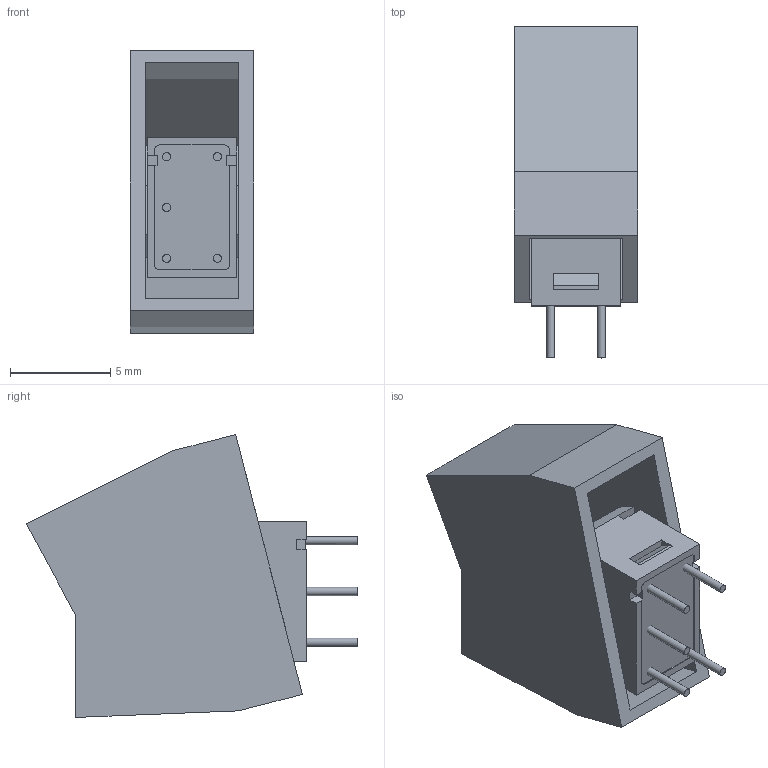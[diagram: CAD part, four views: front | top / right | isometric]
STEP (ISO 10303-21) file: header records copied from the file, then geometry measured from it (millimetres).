
FILE_DESCRIPTION(/* description */ ('STEP AP214'),/* implementation_level */ '2;1');
FILE_NAME(/* name */ 'G12KP-YA',/* time_stamp */ '2025-09-04T10:02:55+02:00',/* author */ ('License CC BY-ND 4.0'),/* organization */ ('CADENAS'),/* preprocessor_version */ 'ST-DEVELOPER v19.3',/* originating_system */ 'PARTsolutions',/* authorisation */ ' ');
FILE_SCHEMA (('AUTOMOTIVE_DESIGN {1 0 10303 214 3 1 1}'));
Length unit declared in the file: inch
Products named in the file (5): G12KP-YA; GP-body; G-rocker_actuator; AT4062A; G1-trmnls
Assembly tree (4 placements, depth 2):
  G12KP-YA
    GP-body
    G-rocker_actuator
    AT4062A
    G1-trmnls
Bounding box: 6.2 x 16.59 x 14.14 mm (x, y, z)
Volume: 538.3 mm3; surface area: 1191 mm2
Topology: 4 solids, 4 shells, 126 faces, 325 edges, 211 vertices
Faces by surface type: plane 107, cylinder 16, torus 2, cone 1
Full cylindrical faces by diameter (mm): 0.406 x5, 1.702 x1, 2.235 x1, 3.988 x1
Entity records: 3820 total; most frequent: CARTESIAN_POINT 675, ORIENTED_EDGE 620, DIRECTION 609, EDGE_CURVE 310, LINE 257, VECTOR 257, VERTEX_POINT 204, AXIS2_PLACEMENT_3D 176
